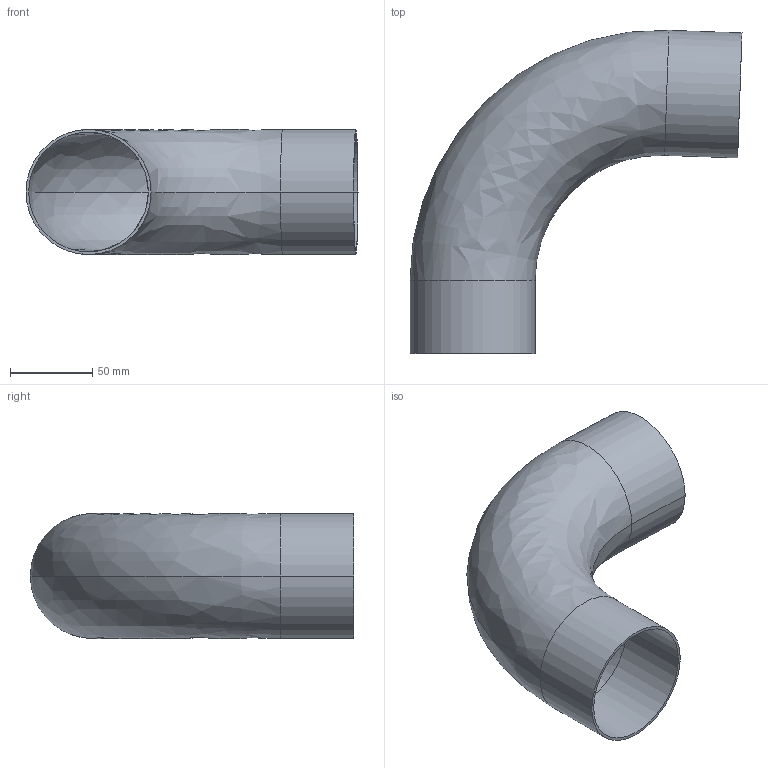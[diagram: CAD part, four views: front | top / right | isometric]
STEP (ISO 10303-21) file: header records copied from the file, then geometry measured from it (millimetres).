
FILE_DESCRIPTION (( 'STEP AP214' ), '1' );
FILE_NAME ('TE2S926L3.0-...STEP', '2016-05-22T11:28:42', ( 'eran' ), ( '' ), 'SwSTEP 2.0', 'SolidWorks 2016', '' );
FILE_SCHEMA (( 'AUTOMOTIVE_DESIGN' ));
Length unit declared in the file: millimetre
Products named in the file (1): TE2S926L3.0-..
Bounding box: 202.24 x 196.86 x 76.2 mm (x, y, z)
Volume: 105356.7 mm3; surface area: 128477.8 mm2
Topology: 1 solids, 1 shells, 14 faces, 28 edges, 16 vertices
Faces by surface type: cylinder 8, bspline 4, plane 2
Entity records: 450 total; most frequent: CARTESIAN_POINT 119, DIRECTION 70, ORIENTED_EDGE 56, AXIS2_PLACEMENT_3D 31, EDGE_CURVE 28, CIRCLE 20, EDGE_LOOP 16, VERTEX_POINT 16
